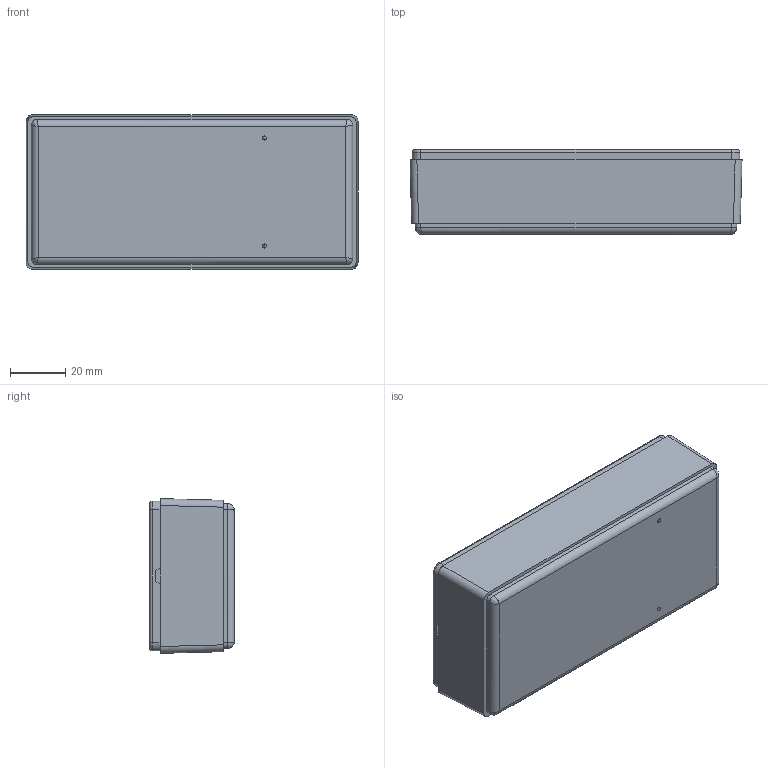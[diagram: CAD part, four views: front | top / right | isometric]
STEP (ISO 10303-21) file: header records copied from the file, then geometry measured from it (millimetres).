
FILE_DESCRIPTION (( 'STEP AP214' ), '1' );
FILE_NAME ('Conjunt PP4A.STEP', '2017-07-17T08:58:42', ( 'aaa' ), ( '' ), 'SwSTEP 2.0', 'SolidWorks 2013', '' );
FILE_SCHEMA (( 'AUTOMOTIVE_DESIGN' ));
Length unit declared in the file: millimetre
Products named in the file (5): Conjunt PP4A; Cargol 2,2x9,5 PP4A; Cargol 2,9x20 PP4A; Tapa PP4A; Cos PP4A
Assembly tree (5 placements, depth 2):
  Conjunt PP4A
    Cos PP4A
    Tapa PP4A
    Cargol 2,9x20 PP4A
    Cargol 2,2x9,5 PP4A  x2
Bounding box: 120.6 x 30.8 x 56.2 mm (x, y, z)
Volume: 43592.5 mm3; surface area: 50740.2 mm2
Topology: 5 solids, 5 shells, 552 faces, 1292 edges, 755 vertices
Faces by surface type: cone 282, plane 202, cylinder 60, bspline 4, torus 4
Entity records: 13704 total; most frequent: CARTESIAN_POINT 2510, DIRECTION 2342, ORIENTED_EDGE 2220, EDGE_CURVE 1110, AXIS2_PLACEMENT_3D 782, LINE 778, VECTOR 778, VERTEX_POINT 662
